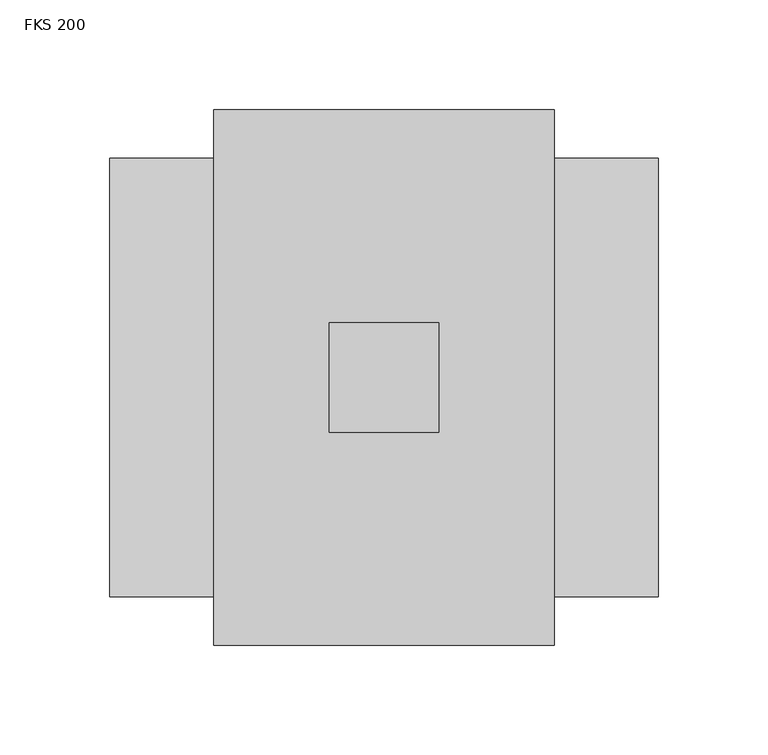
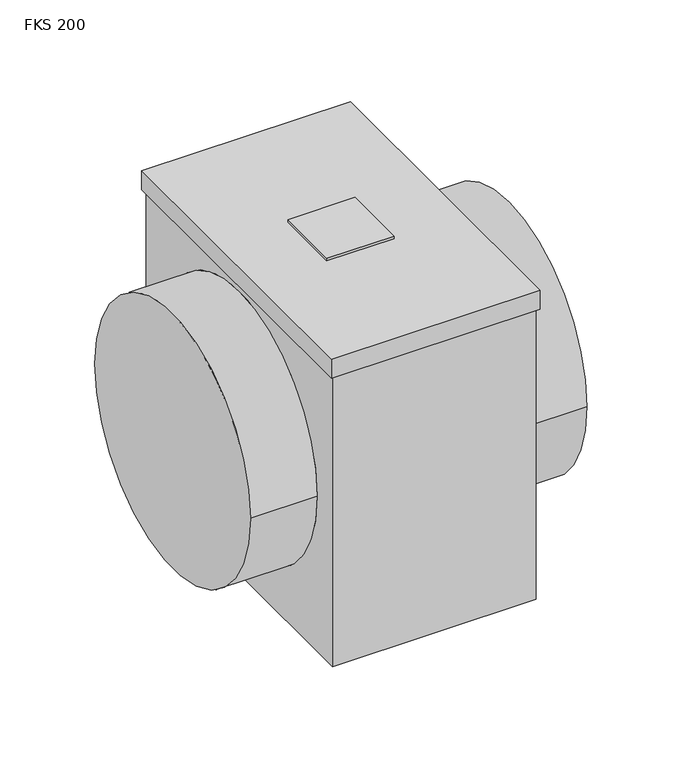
"""IFC4 building model written with IfcOpenShell, lengths in millimetres: damper geometry, KORF_Фильтр_Кассетный_Круглый_FKS : FKS 200."""

from ifc_helpers import new_model, si_unit, frame, origin, place, context, project, spatial, polyline, circle_curve, outline, extrude, source, transform, mapped, element, save
from ifc_brep_helpers import plane_surface, cylinder_surface, advanced_brep


def fks_200_acca57ad(model_context):
    return source(origin(), model_context, "Body", "SolidModel", [
        extrude(outline(polyline([(150.0, 25.0), (150.0, -25.0), (100.0, -25.0), (100.0, 25.0), (150.0, 25.0)])), frame((0.0, 0.0, 121.5), z_axis=(0.0, 0.0, 1.0), x_axis=(1.0, 0.0, 0.0)), (0.0, 0.0, 1.0), 2.0),
        advanced_brep(
        [(250.0, -100.0, 0.0), (250.0, 100.0, 0.0), (0.0, -100.0, 0.0), (0.0, 100.0, 0.0), (200.5, -100.0, 0.0), (200.5, 100.0, 0.0), (49.5, 100.0, 0.0), (49.5, -100.0, 0.0), (200.5, -120.0, -121.5), (200.5, 120.0, -121.5), (200.5, 120.0, 106.5), (200.5, -120.0, 106.5), (49.5, 120.0, -121.5), (49.5, -120.0, -121.5), (49.5, -120.0, 106.5), (49.5, 120.0, 106.5), (202.5, 122.0, 121.5), (47.5, 122.0, 121.5), (47.5, -122.0, 121.5), (202.5, -122.0, 121.5), (202.5, 122.0, 106.5), (202.5, -122.0, 106.5), (47.5, -122.0, 106.5), (47.5, 122.0, 106.5)],
        [
            (0, 1, circle_curve(frame((250.0, 0.0, 0.0), z_axis=(1.0, 0.0, 0.0), x_axis=(0.0, 1.0, 0.0)), 100.0)),
            (1, 0, circle_curve(frame((250.0, 0.0, 0.0), z_axis=(1.0, 0.0, 0.0), x_axis=(0.0, 1.0, 0.0)), 100.0)),
            (2, 3, circle_curve(frame((0.0, 0.0, 0.0), z_axis=(-1.0, 0.0, 0.0), x_axis=(0.0, 1.0, 0.0)), 100.0)),
            (3, 2, circle_curve(frame((0.0, 0.0, 0.0), z_axis=(-1.0, 0.0, 0.0), x_axis=(0.0, 1.0, 0.0)), 100.0)),
            (0, 4),
            (4, 5, circle_curve(frame((200.5, 0.0, 0.0), z_axis=(1.0, 0.0, 0.0), x_axis=(0.0, 1.0, 0.0)), 100.0)),
            (5, 1),
            (3, 6),
            (6, 7, circle_curve(frame((49.5, 0.0, 0.0), z_axis=(-1.0, 0.0, 0.0), x_axis=(0.0, 1.0, 0.0)), 100.0)),
            (7, 2),
            (5, 4, circle_curve(frame((200.5, 0.0, 0.0), z_axis=(1.0, 0.0, 0.0), x_axis=(0.0, 1.0, 0.0)), 100.0)),
            (7, 6, circle_curve(frame((49.5, 0.0, 0.0), z_axis=(-1.0, 0.0, 0.0), x_axis=(0.0, 1.0, 0.0)), 100.0)),
            (8, 9),
            (9, 10),
            (10, 11),
            (11, 8),
            (12, 13),
            (13, 14),
            (14, 15),
            (15, 12),
            (13, 8),
            (11, 14),
            (12, 9),
            (15, 10),
            (16, 17),
            (17, 18),
            (18, 19),
            (19, 16),
            (20, 21),
            (21, 22),
            (22, 23),
            (23, 20),
            (16, 20),
            (23, 17),
            (22, 18),
            (21, 19),
        ],
        [
            plane_surface(frame((250.0, 100.0, 0.0), z_axis=(1.0, 0.0, 0.0), x_axis=(0.0, 0.0, 1.0))),
            plane_surface(frame((0.0, 100.0, 0.0), z_axis=(-1.0, 0.0, 0.0), x_axis=(0.0, 0.0, -1.0))),
            cylinder_surface(frame((0.0, 0.0, 0.0), z_axis=(1.0, 0.0, 0.0), x_axis=(0.0, 1.0, 0.0)), 100.0),
            plane_surface(frame((200.5, -120.0, 121.5), z_axis=(1.0, 0.0, 0.0), x_axis=(0.0, 0.0, -1.0))),
            plane_surface(frame((49.5, -120.0, 121.5), z_axis=(-1.0, 0.0, 0.0), x_axis=(0.0, 0.0, 1.0))),
            plane_surface(frame((200.5, -120.0, 121.5), z_axis=(0.0, -1.0, 0.0), x_axis=(-1.0, 0.0, 0.0))),
            plane_surface(frame((200.5, -120.0, -121.5), z_axis=(0.0, 0.0, -1.0), x_axis=(-1.0, 0.0, 0.0))),
            plane_surface(frame((200.5, 120.0, -121.5), z_axis=(0.0, 1.0, 0.0), x_axis=(-1.0, 0.0, 0.0))),
            plane_surface(frame((200.5, 120.0, 121.5), z_axis=(0.0, 0.0, 1.0), x_axis=(-1.0, 0.0, 0.0))),
            plane_surface(frame((47.5, 122.0, 106.5), z_axis=(0.0, 0.0, -1.0), x_axis=(1.0, 0.0, 0.0))),
            plane_surface(frame((202.5, 122.0, 121.5), z_axis=(0.0, 1.0, 0.0), x_axis=(0.0, 0.0, -1.0))),
            plane_surface(frame((47.5, 122.0, 121.5), z_axis=(-1.0, 0.0, 0.0), x_axis=(0.0, 0.0, -1.0))),
            plane_surface(frame((47.5, -122.0, 121.5), z_axis=(0.0, -1.0, 0.0), x_axis=(0.0, 0.0, -1.0))),
            plane_surface(frame((202.5, -122.0, 121.5), z_axis=(1.0, 0.0, 0.0), x_axis=(0.0, 0.0, -1.0))),
        ],
        [
            (0, [[1, 2]]),
            (1, [[3, 4]]),
            (2, [[-1, 5, 6, 7]]),
            (2, [[-4, 8, 9, 10]]),
            (2, [[-2, -7, 11, -5]]),
            (2, [[-3, -10, 12, -8]]),
            (3, [[13, 14, 15, 16], [-6, -11]]),
            (4, [[17, 18, 19, 20], [-9, -12]]),
            (5, [[21, -16, 22, -18]]),
            (6, [[-13, -21, -17, 23]]),
            (7, [[-23, -20, 24, -14]]),
            (8, [[25, 26, 27, 28]]),
            (9, [[29, 30, 31, 32], [-15, -24, -19, -22]]),
            (10, [[-25, 33, -32, 34]]),
            (11, [[-26, -34, -31, 35]]),
            (12, [[-27, -35, -30, 36]]),
            (13, [[-28, -36, -29, -33]]),
        ],
    ),
    ])


if __name__ == "__main__":
    model = new_model("IFC4")
    model_context = context("Model", 3, world=origin())
    ifc_project = project(units=[si_unit("LENGTHUNIT", "METRE", prefix="MILLI")], contexts=[model_context])
    site = spatial("IfcSite", under=ifc_project)
    building = spatial("IfcBuilding", under=site)
    placement = place(None, origin())
    fks_200_shape = fks_200_acca57ad(model_context)
    element("IfcDamper", 1, ObjectType="KORF_Фильтр_Кассетный_Круглый_FKS : FKS 200", at=placement, inside=building, context=model_context, shape_type="MappedRepresentation", body=[
        mapped(fks_200_shape, transform((0.0, 0.0, 0.0), x_axis=(1.0, 0.0, 0.0), y_axis=(0.0, 1.0, 0.0), z_axis=(0.0, 0.0, 1.0))),
    ])
    save(model, "model.ifc")
